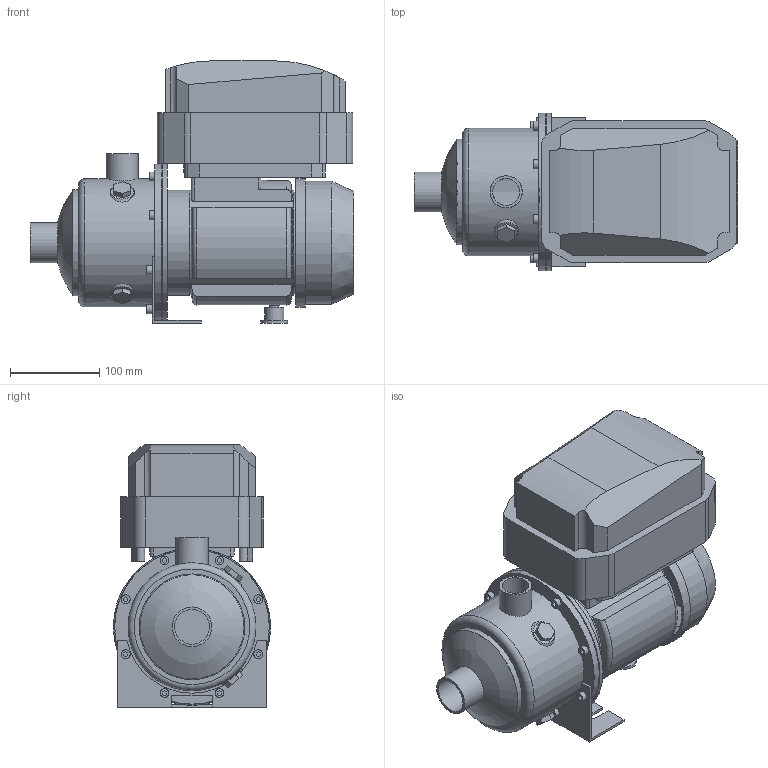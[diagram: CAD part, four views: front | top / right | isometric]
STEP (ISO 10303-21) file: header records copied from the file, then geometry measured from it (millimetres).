
FILE_DESCRIPTION(/* description */ ('Unknown'),/* implementation_level */ '2;1');
FILE_NAME(/* name */ 'MH 3 [3] T6 IE3 DTm',/* time_stamp */ '2026-07-10T15:10:40+02:00',/* author */ ('Unknown'),/* organization */ ('Unknown'),/* preprocessor_version */ 'ST-DEVELOPER v20',/* originating_system */ 'Solid Edge',/* authorisation */ 'Unknown');
FILE_SCHEMA (('AUTOMOTIVE_DESIGN {1 0 10303 214 3 1 1}'));
Length unit declared in the file: millimetre
Products named in the file (9): MH 3 [3] T6 IE3 DTm; Flangia motore Tonda M71; Corpo MH 3-5 [2-3]; Motore MEC 71 - T - VFD; carcassa MEC 71; Copriventola MEC 71; VFD sempl; Piedino MEC 71 int.90; Staffa 3-5-9 int.90
Assembly tree (8 placements, depth 3):
  MH 3 [3] T6 IE3 DTm
    Flangia motore Tonda M71
    Corpo MH 3-5 [2-3]
    Motore MEC 71 - T - VFD
      carcassa MEC 71
      Copriventola MEC 71
      VFD sempl
    Piedino MEC 71 int.90
    Staffa 3-5-9 int.90
Bounding box: 362.6 x 176.5 x 294 mm (x, y, z)
Volume: 4940846.2 mm3; surface area: 590841.3 mm2
Topology: 7 solids, 7 shells, 300 faces, 726 edges, 487 vertices
Faces by surface type: plane 196, cylinder 76, cone 17, torus 9, sphere 2
Full cylindrical faces by diameter (mm): 7 x4, 10 x9, 21 x1, 30 x1, 30.291 x1, 36 x1, 38.952 x1, 44.5 x1, 110 x1, 114 x3, 116.1 x1, 118 x2, 118.5 x1, 133 x1, 138 x1, 139 x1, 141.1 x1, 143.5 x1, 144 x1, 173.5 x1, 174.1 x1, 176.5 x2
Entity records: 9753 total; most frequent: CARTESIAN_POINT 1734, DIRECTION 1404, ORIENTED_EDGE 1302, EDGE_CURVE 651, AXIS2_PLACEMENT_3D 488, VERTEX_POINT 462, LINE 428, VECTOR 428
